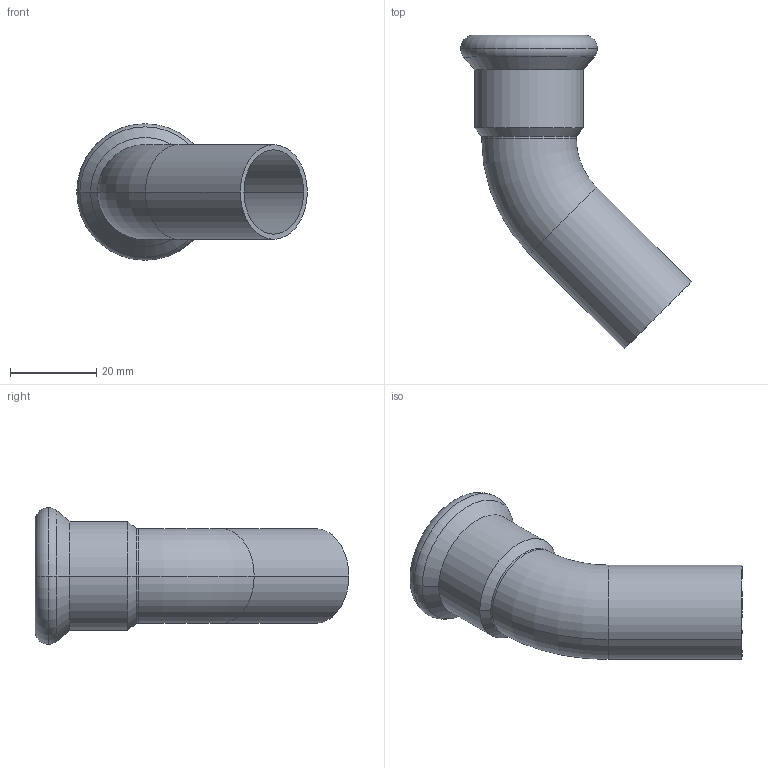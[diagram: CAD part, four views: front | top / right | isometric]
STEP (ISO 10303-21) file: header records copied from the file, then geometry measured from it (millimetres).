
FILE_DESCRIPTION(('OneSpaceDesigner STEP Export'),'2;1');
FILE_NAME('R2712 22x22.stp','2010-06-09T15:20:43',(''),(''),'OneSpace Designer STEP processor for AP214 (Solid Model)','OneSpace Modeling 15.00A 14-Mar-2007 (C) CoCreate Software GmbH','');
FILE_SCHEMA(('AUTOMOTIVE_DESIGN { 1 0 10303 214 1 1 1 1 }'));
Length unit declared in the file: millimetre
Products named in the file (2): R2712_22x22
Assembly tree (1 placements, depth 2):
  R2712_22x22
    R2712_22x22
Bounding box: 53.54 x 72.89 x 31.7 mm (x, y, z)
Volume: 8555.6 mm3; surface area: 11596.1 mm2
Topology: 1 solids, 1 shells, 66 faces, 160 edges, 101 vertices
Faces by surface type: plane 31, cylinder 23, torus 8, cone 4
Entity records: 1766 total; most frequent: ORIENTED_EDGE 320, CARTESIAN_POINT 283, DIRECTION 271, EDGE_CURVE 160, VERTEX_POINT 101, VECTOR 93, LINE 93, AXIS2_PLACEMENT_3D 89
